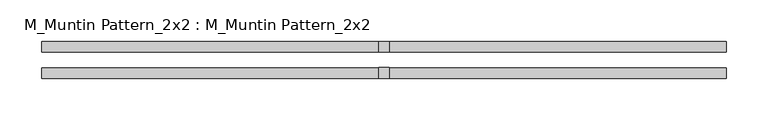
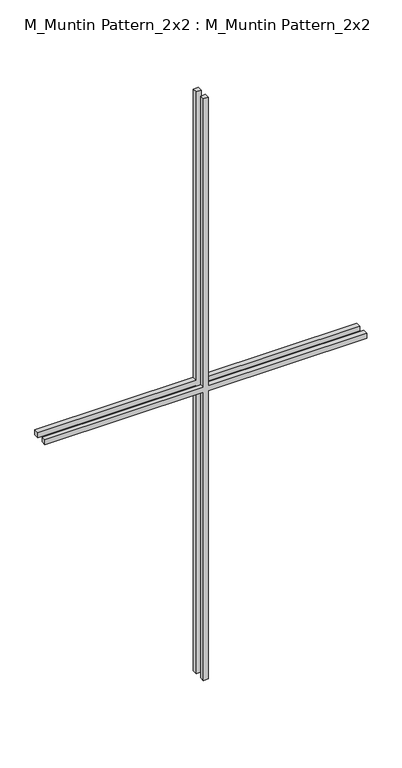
"""IFC4 building model written with IfcOpenShell, lengths in millimetres: proxy geometry, M_Muntin Pattern_2x2 : M_Muntin Pattern_2x2."""

from ifc_helpers import new_model, si_unit, frame, origin, place, context, project, spatial, polyline, outline, extrude, source, transform, mapped, element, save


def m_muntin_pattern_2x2_m_muntin_pattern_2x2_65db4d50(model_context):
    return source(origin(), model_context, "Body", "SweptSolid", [
        extrude(outline(polyline([(793.25, -6.35), (793.25, -411.9), (780.55, -411.9), (780.55, -6.35), (0.0, -6.35), (0.0, 6.35), (780.55, 6.35), (780.55, 411.9), (793.25, 411.9), (793.25, 6.35), (1573.8, 6.35), (1573.8, -6.35), (793.25, -6.35)])), frame((0.0, -22.225, 0.0), z_axis=(0.0, 1.0, 0.0), x_axis=(0.0, 0.0, 1.0)), (0.0, 0.0, 1.0), 12.7),
        extrude(outline(polyline([(793.25, -6.35), (793.25, -411.9), (780.55, -411.9), (780.55, -6.35), (0.0, -6.35), (0.0, 6.35), (780.55, 6.35), (780.55, 411.9), (793.25, 411.9), (793.25, 6.35), (1573.8, 6.35), (1573.8, -6.35), (793.25, -6.35)])), frame((0.0, 9.525, 0.0), z_axis=(0.0, 1.0, 0.0), x_axis=(0.0, 0.0, 1.0)), (0.0, 0.0, 1.0), 12.7),
    ])


if __name__ == "__main__":
    model = new_model("IFC4")
    model_context = context("Model", 3, world=origin())
    ifc_project = project(units=[si_unit("LENGTHUNIT", "METRE", prefix="MILLI")], contexts=[model_context])
    site = spatial("IfcSite", under=ifc_project)
    building = spatial("IfcBuilding", under=site)
    placement = place(None, origin())
    m_muntin_pattern_2x2_m_muntin_pattern_2x2_shape = m_muntin_pattern_2x2_m_muntin_pattern_2x2_65db4d50(model_context)
    element("IfcBuildingElementProxy", 1, Name="M_Muntin Pattern_2x2 : M_Muntin Pattern_2x2", ObjectType="M_Muntin Pattern_2x2 : M_Muntin Pattern_2x2", at=placement, inside=building, context=model_context, shape_type="MappedRepresentation", body=[
        mapped(m_muntin_pattern_2x2_m_muntin_pattern_2x2_shape, transform((0.0, 0.0, 0.0), x_axis=(1.0, 0.0, 0.0), y_axis=(0.0, 1.0, 0.0), z_axis=(0.0, 0.0, 1.0))),
    ])
    save(model, "model.ifc")
